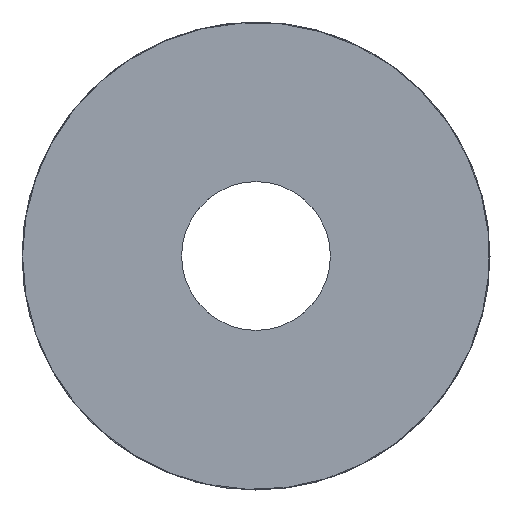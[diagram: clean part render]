
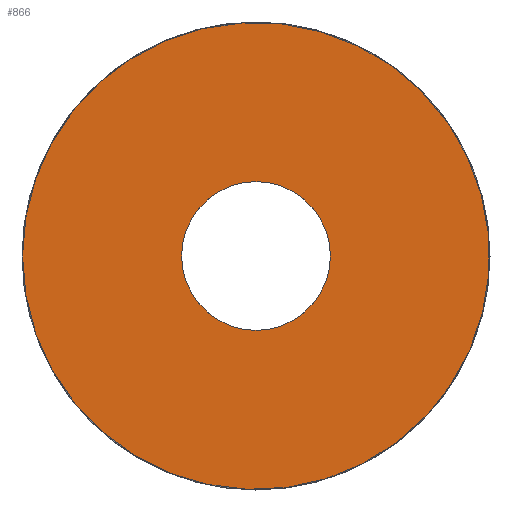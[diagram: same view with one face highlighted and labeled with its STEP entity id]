
A CAD part, front view. The second image highlights one B-rep face of the part: STEP entity #866.
In plain terms, the highlighted planar face has unit normal (0, -1, 0).
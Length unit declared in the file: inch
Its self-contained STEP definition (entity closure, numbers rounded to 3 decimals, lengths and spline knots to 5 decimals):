
#15=FACE_BOUND('',#254,.T.);
#165=PLANE('',#948);
#208=FACE_OUTER_BOUND('',#253,.T.);
#253=EDGE_LOOP('',(#796,#797));
#254=EDGE_LOOP('',(#798));
#287=CIRCLE('',#949,0.439);
#288=CIRCLE('',#950,0.439);
#289=CIRCLE('',#951,0.14);
#420=VERTEX_POINT('',#2565);
#421=VERTEX_POINT('',#2566);
#422=VERTEX_POINT('',#2569);
#550=EDGE_CURVE('',#420,#421,#287,.T.);
#551=EDGE_CURVE('',#421,#420,#288,.T.);
#552=EDGE_CURVE('',#422,#422,#289,.T.);
#796=ORIENTED_EDGE('',*,*,#550,.F.);
#797=ORIENTED_EDGE('',*,*,#551,.F.);
#798=ORIENTED_EDGE('',*,*,#552,.T.);
#866=ADVANCED_FACE('',(#208,#15),#165,.F.);
#948=AXIS2_PLACEMENT_3D('',#2564,#1139,#1140);
#949=AXIS2_PLACEMENT_3D('',#2567,#1141,#1142);
#950=AXIS2_PLACEMENT_3D('',#2568,#1143,#1144);
#951=AXIS2_PLACEMENT_3D('',#2570,#1145,#1146);
#1139=DIRECTION('center_axis',(0.,1.,0.));
#1140=DIRECTION('ref_axis',(1.,0.,0.));
#1141=DIRECTION('center_axis',(0.,1.,0.));
#1142=DIRECTION('ref_axis',(1.,0.,0.));
#1143=DIRECTION('center_axis',(0.,1.,0.));
#1144=DIRECTION('ref_axis',(1.,0.,0.));
#1145=DIRECTION('center_axis',(0.,1.,0.));
#1146=DIRECTION('ref_axis',(1.,0.,0.));
#2564=CARTESIAN_POINT('Origin',(0.,0.,0.));
#2565=CARTESIAN_POINT('',(-0.1,0.,0.42746));
#2566=CARTESIAN_POINT('',(-0.439,0.,0.));
#2567=CARTESIAN_POINT('Origin',(0.,0.,0.));
#2568=CARTESIAN_POINT('Origin',(0.,0.,0.));
#2569=CARTESIAN_POINT('',(-0.14,0.,0.));
#2570=CARTESIAN_POINT('Origin',(0.,0.,0.));
